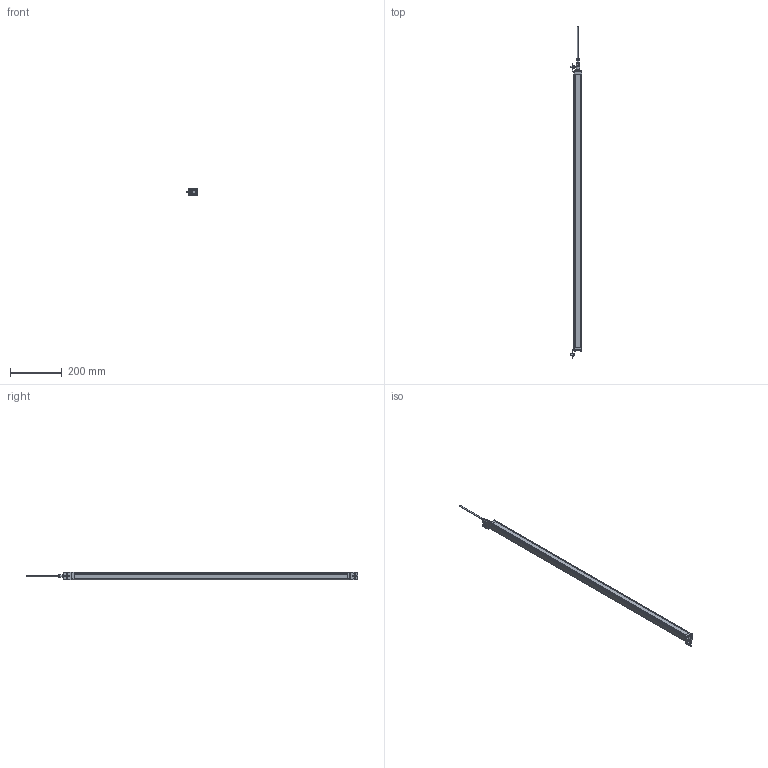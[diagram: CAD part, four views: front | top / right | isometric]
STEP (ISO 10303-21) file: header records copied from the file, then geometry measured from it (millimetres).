
FILE_DESCRIPTION(/* description */ (''),/* implementation_level */ '2;1');
FILE_NAME(/* name */ 'QE36-30-1050_stp_stp_stp.stp',/* time_stamp */ '2023-07-18T20:59:05+08:00',/* author */ (''),/* organization */ (''),/* preprocessor_version */ 'ST-DEVELOPER v14',/* originating_system */ 'SIEMENS PLM Software NX 8.0',/* authorisation */ '');
FILE_SCHEMA (('CONFIG_CONTROL_DESIGN'));
Products named in the file (1): QE30-30-870_stp_stp_stp
Bounding box: 44.2 x 1288.8 x 30 mm (x, y, z)
Volume: 878106.8 mm3; surface area: 193932.2 mm2
Topology: 25 solids, 25 shells, 619 faces, 1571 edges, 1037 vertices
Faces by surface type: plane 335, cylinder 196, bspline 57, cone 22, sphere 5, torus 4
Full cylindrical faces by diameter (mm): 0.7 x2, 1 x5, 2 x5, 2.2 x8, 3.6 x8, 4 x4, 5.5 x12, 6 x2, 7 x2, 8 x1, 9.04 x1, 9.1 x1, 10 x3, 10.8 x1, 11 x2, 11.85 x1, 11.9 x1, 14.5 x1, 15 x2, 15.2 x2
Entity records: 41701 total; most frequent: CARTESIAN_POINT 27535, ORIENTED_EDGE 2832, DIRECTION 2774, EDGE_CURVE 1416, AXIS2_PLACEMENT_3D 1007, VERTEX_POINT 983, EDGE_LOOP 813, LINE 760
